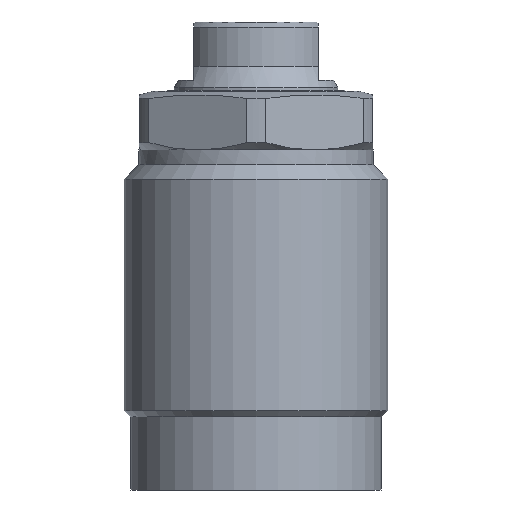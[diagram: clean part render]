
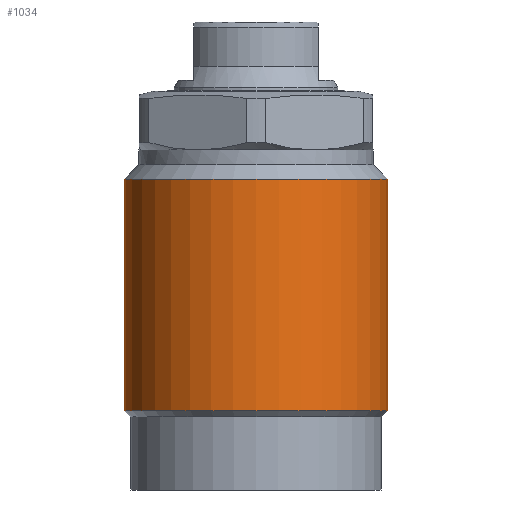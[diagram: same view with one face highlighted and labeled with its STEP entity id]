
A CAD part, front view. The second image highlights one B-rep face of the part: STEP entity #1034.
In plain terms, the highlighted cylindrical face has radius 18 mm (diameter 36 mm), a partial arc.
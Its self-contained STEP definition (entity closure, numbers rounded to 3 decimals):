
#971=CARTESIAN_POINT('',(-18.,0.0,-43.65));
#972=VERTEX_POINT('',#971);
#980=CARTESIAN_POINT('',(18.,0.0,-43.65));
#981=VERTEX_POINT('',#980);
#988=CARTESIAN_POINT('',(-0.0,0.0,-43.65));
#989=DIRECTION('',(0.0,0.0,1.0));
#990=DIRECTION('',(1.0,0.0,-0.0));
#991=AXIS2_PLACEMENT_3D('',#988,#989,#990);
#992=CIRCLE('',#991,18.);
#993=EDGE_CURVE('no 2081',#972,#981,#992,.T.);
#1003=CARTESIAN_POINT('',(-18.,0.0,-12.));
#1004=VERTEX_POINT('',#1003);
#1005=CARTESIAN_POINT('',(-18.,0.0,-43.65));
#1006=DIRECTION('',(0.0,-0.0,1.0));
#1007=VECTOR('',#1006,1.0);
#1008=LINE('',#1005,#1007);
#1009=EDGE_CURVE('no 2091',#972,#1004,#1008,.T.);
#1010=ORIENTED_EDGE('',*,*,#1009,.F.);
#1011=ORIENTED_EDGE('',*,*,#993,.T.);
#1012=CARTESIAN_POINT('',(18.,0.0,-12.));
#1013=VERTEX_POINT('',#1012);
#1014=CARTESIAN_POINT('',(18.,0.0,-43.65));
#1015=DIRECTION('',(0.0,0.0,1.0));
#1016=VECTOR('',#1015,1.0);
#1017=LINE('',#1014,#1016);
#1018=EDGE_CURVE('no 2099',#981,#1013,#1017,.T.);
#1019=ORIENTED_EDGE('',*,*,#1018,.T.);
#1020=CARTESIAN_POINT('',(-0.0,0.0,-12.));
#1021=DIRECTION('',(0.0,0.0,1.0));
#1022=DIRECTION('',(1.0,0.0,-0.0));
#1023=AXIS2_PLACEMENT_3D('',#1020,#1021,#1022);
#1024=CIRCLE('',#1023,18.);
#1025=EDGE_CURVE('no 2103',#1004,#1013,#1024,.T.);
#1026=ORIENTED_EDGE('',*,*,#1025,.F.);
#1027=EDGE_LOOP('',(#1010,#1011,#1019,#1026));
#1028=FACE_OUTER_BOUND('',#1027,.T.);
#1029=CARTESIAN_POINT('',(-0.0,0.0,14.451));
#1030=DIRECTION('',(0.0,0.0,1.0));
#1031=DIRECTION('',(0.0,1.0,-0.0));
#1032=AXIS2_PLACEMENT_3D('',#1029,#1030,#1031);
#1033=CYLINDRICAL_SURFACE('',#1032,18.);
#1034=ADVANCED_FACE('no 2084',(#1028),#1033,.T.);
